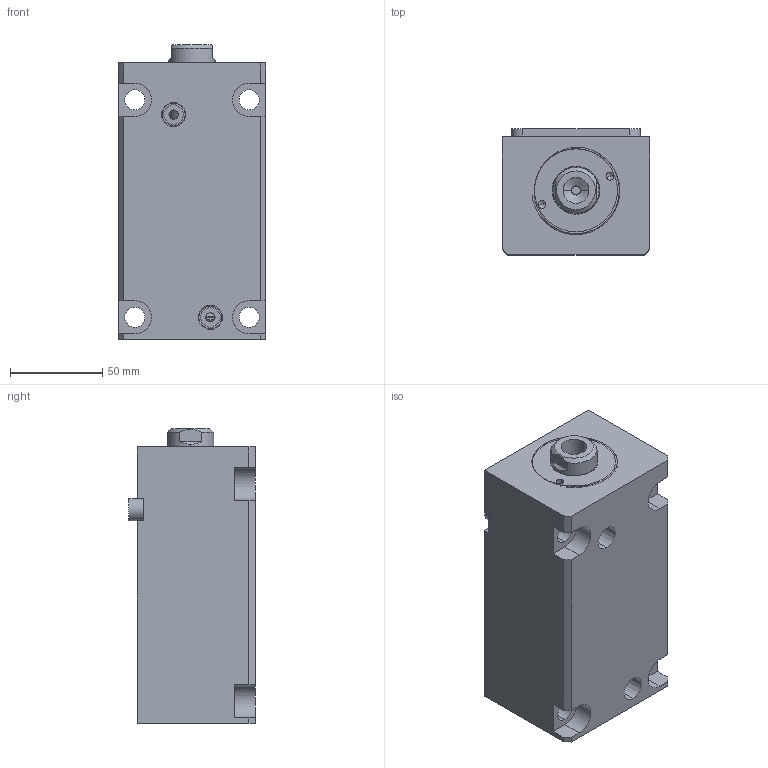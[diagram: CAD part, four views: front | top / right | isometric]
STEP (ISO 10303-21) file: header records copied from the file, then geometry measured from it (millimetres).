
FILE_DESCRIPTION (( 'STEP AP214' ), '1' );
FILE_NAME ('chtb-la40x95n_asm.STEP', '2018-05-31T02:13:12', ( 'Windows' ), ( 'Microsoft' ), 'SwSTEP 2.0', 'SolidWorks 2015', '' );
FILE_SCHEMA (( 'AUTOMOTIVE_DESIGN' ));
Length unit declared in the file: millimetre
Products named in the file (5): CHTB-LA40PJ; CHTB-SD40QG; CHTB-SD40X95NHSG; CHTB-LA40X95NBT; chtb-la40x95n_asm
Assembly tree (4 placements, depth 2):
  chtb-la40x95n_asm
    CHTB-LA40X95NBT
    CHTB-SD40X95NHSG
    CHTB-SD40QG
    CHTB-LA40PJ
Bounding box: 80 x 68.5 x 160 mm (x, y, z)
Volume: 655440.7 mm3; surface area: 112246.1 mm2
Topology: 4 solids, 4 shells, 160 faces, 430 edges, 286 vertices
Faces by surface type: cylinder 73, plane 48, bspline 14, cone 13, torus 12
Entity records: 10258 total; most frequent: CARTESIAN_POINT 6106, ORIENTED_EDGE 848, DIRECTION 787, EDGE_CURVE 424, AXIS2_PLACEMENT_3D 314, VERTEX_POINT 286, EDGE_LOOP 188, CIRCLE 161
